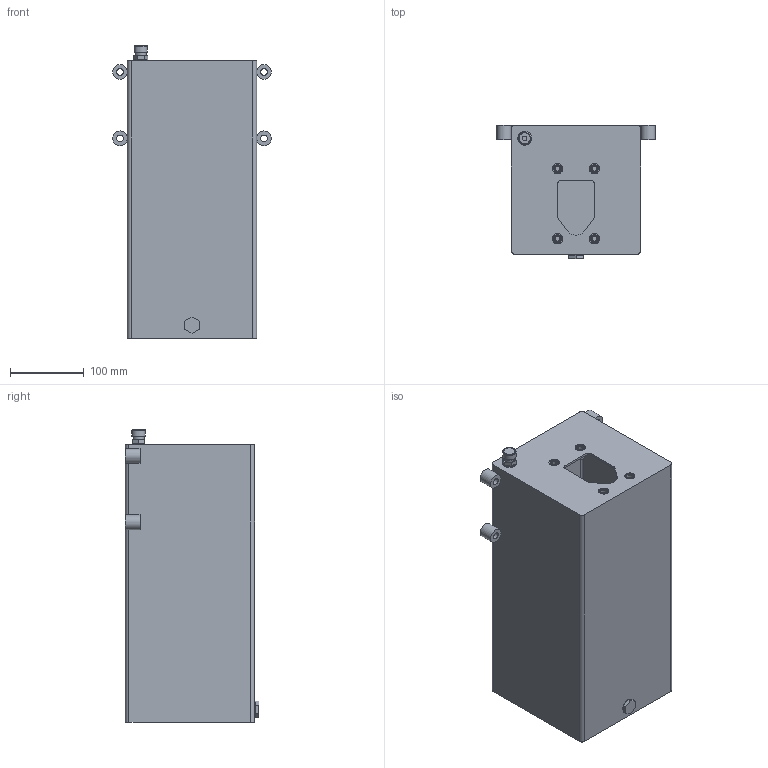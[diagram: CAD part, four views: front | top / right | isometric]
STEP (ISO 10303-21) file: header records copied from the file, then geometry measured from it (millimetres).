
FILE_DESCRIPTION( ( 'Unknown' ), '1' );
FILE_NAME( 'C:/AAADIS PDF/PM00220010.stp', 'Unknown', ( 'Unknown' ), ( 'Unknown' ), 'PSStep 17.0.49', 'Unknown', ' ' );
FILE_SCHEMA( ( 'AUTOMOTIVE_DESIGN { 1 0 10303 214 1 1 1 1 }' ) );
Length unit declared in the file: millimetre
Products named in the file (8): Assem1; PM00220007_01; GAR1300000; RV401.0400; ATS31A0040; PM00220007_02; PM00220010
Assembly tree (14 placements, depth 2):
  Assem1
    PM00220007_01  x4
    GAR1300000  x2
    RV401.0400
    ATS31A0040
    ATS31A0040
    PM00220007_02  x4
    PM00220010
Bounding box: 215 x 180.7 x 396.7 mm (x, y, z)
Volume: 964229.8 mm3; surface area: 642050 mm2
Topology: 14 solids, 14 shells, 134 faces, 281 edges, 190 vertices
Faces by surface type: plane 72, cylinder 53, cone 7, torus 2
Full cylindrical faces by diameter (mm): 6 x1, 6.647 x4, 8 x1, 9 x9, 10.9 x8, 11.445 x2, 12 x1, 13 x2, 13.157 x1, 13.16 x1, 15 x1, 16 x2, 18 x1, 19 x2, 20 x4
Entity records: 3374 total; most frequent: DIRECTION 478, CARTESIAN_POINT 424, ORIENTED_EDGE 354, AXIS2_PLACEMENT_3D 189, EDGE_CURVE 177, EDGE_LOOP 156, VERTEX_POINT 135, FACE_OUTER_BOUND 122
